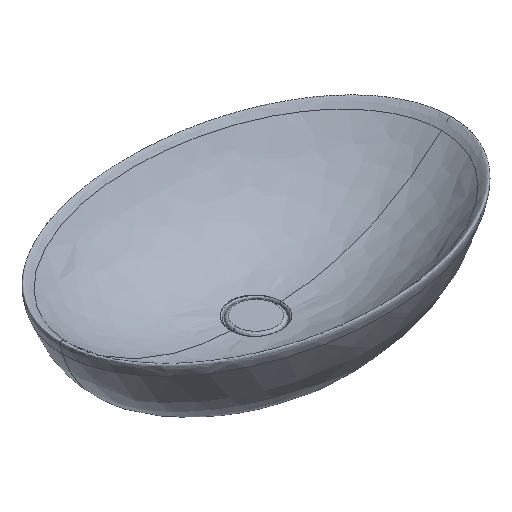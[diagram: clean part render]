
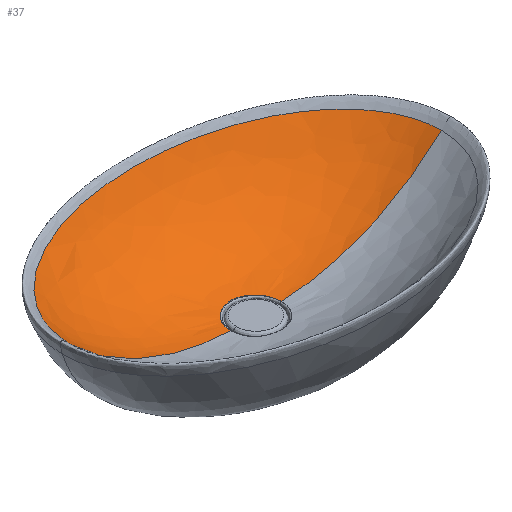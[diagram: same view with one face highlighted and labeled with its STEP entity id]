
A CAD part, isometric view. The second image highlights one B-rep face of the part: STEP entity #37.
In plain terms, the highlighted free-form (B-spline) face has degree [2, 3] with [5, 4] control points.
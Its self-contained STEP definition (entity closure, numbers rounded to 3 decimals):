
#37=ADVANCED_FACE('',(#52),#187,.T.);
#52=FACE_OUTER_BOUND('',#68,.T.);
#68=EDGE_LOOP('',(#109,#110,#111,#112,#113));
#109=ORIENTED_EDGE('',*,*,#149,.T.);
#110=ORIENTED_EDGE('',*,*,#144,.T.);
#111=ORIENTED_EDGE('',*,*,#136,.T.);
#112=ORIENTED_EDGE('',*,*,#135,.T.);
#113=ORIENTED_EDGE('',*,*,#148,.F.);
#135=EDGE_CURVE('',#165,#166,#160,.T.);
#136=EDGE_CURVE('',#162,#165,#219,.T.);
#144=EDGE_CURVE('',#168,#162,#226,.T.);
#148=EDGE_CURVE('',#172,#166,#230,.T.);
#149=EDGE_CURVE('',#172,#168,#231,.T.);
#160=B_SPLINE_CURVE_WITH_KNOTS('',3,(#1621,#1622,#1623,#1624,#1625,#1626,
#1627,#1628,#1629,#1630,#1631,#1632,#1633,#1634,#1635,#1636,#1637,#1638,
#1639,#1640,#1641,#1642,#1643,#1644,#1645,#1646,#1647,#1648,#1649,#1650,
#1651),.UNSPECIFIED.,.F.,.F.,(4,2,3,3,2,2,3,2,2,3,3,2,4),(-24.831,
-23.68,-22.529,-21.729,-20.953,
-20.178,-18.623,-17.068,-16.293,
-15.518,-14.717,-13.566,-12.415),
 .UNSPECIFIED.);
#162=VERTEX_POINT('',#1558);
#165=VERTEX_POINT('',#1561);
#166=VERTEX_POINT('',#1562);
#168=VERTEX_POINT('',#1564);
#172=VERTEX_POINT('',#1568);
#187=(
BOUNDED_SURFACE()
B_SPLINE_SURFACE(2,3,((#1463,#1464,#1465,#1466),(#1467,#1468,#1469,#1470),
(#1471,#1472,#1473,#1474),(#1475,#1476,#1477,#1478),(#1479,#1480,#1481,
#1482)),.UNSPECIFIED.,.F.,.F.,.F.)
B_SPLINE_SURFACE_WITH_KNOTS((3,2,3),(4,4),(3.142,4.712,
6.283),(38.313,65.694),.UNSPECIFIED.)
GEOMETRIC_REPRESENTATION_ITEM()
RATIONAL_B_SPLINE_SURFACE(((1.,0.957,0.957,1.),
(0.707,0.677,0.677,0.707),
(1.,0.957,0.957,1.),(0.707,0.677,
0.677,0.707),(1.,0.957,0.957,
1.)))
REPRESENTATION_ITEM('')
SURFACE()
);
#219=(
BOUNDED_CURVE()
B_SPLINE_CURVE(3,(#1652,#1653,#1654,#1655),.UNSPECIFIED.,.F.,.F.)
B_SPLINE_CURVE_WITH_KNOTS((4,4),(38.313,65.694),
 .UNSPECIFIED.)
CURVE()
GEOMETRIC_REPRESENTATION_ITEM()
RATIONAL_B_SPLINE_CURVE((1.,0.957,0.957,1.))
REPRESENTATION_ITEM('')
);
#226=(
BOUNDED_CURVE()
B_SPLINE_CURVE(2,(#1700,#1701,#1702,#1703,#1704),.UNSPECIFIED.,.F.,.F.)
B_SPLINE_CURVE_WITH_KNOTS((3,2,3),(3.142,4.712,6.283),
 .UNSPECIFIED.)
CURVE()
GEOMETRIC_REPRESENTATION_ITEM()
RATIONAL_B_SPLINE_CURVE((1.,0.707,1.,0.707,1.))
REPRESENTATION_ITEM('')
);
#230=(
BOUNDED_CURVE()
B_SPLINE_CURVE(3,(#1719,#1720,#1721,#1722),.UNSPECIFIED.,.F.,.F.)
B_SPLINE_CURVE_WITH_KNOTS((4,4),(38.313,65.694),
 .UNSPECIFIED.)
CURVE()
GEOMETRIC_REPRESENTATION_ITEM()
RATIONAL_B_SPLINE_CURVE((1.,0.957,0.957,1.))
REPRESENTATION_ITEM('')
);
#231=(
BOUNDED_CURVE()
B_SPLINE_CURVE(2,(#1723,#1724,#1725),.UNSPECIFIED.,.F.,.F.)
B_SPLINE_CURVE_WITH_KNOTS((3,3),(3.142,3.142),
 .UNSPECIFIED.)
CURVE()
GEOMETRIC_REPRESENTATION_ITEM()
RATIONAL_B_SPLINE_CURVE((1.,1.,1.))
REPRESENTATION_ITEM('')
);
#1463=CARTESIAN_POINT('',(289.236,0.,127.048));
#1464=CARTESIAN_POINT('',(221.075,0.,60.973));
#1465=CARTESIAN_POINT('',(134.085,0.,23.948));
#1466=CARTESIAN_POINT('',(39.37,0.,20.699));
#1467=CARTESIAN_POINT('',(289.236,190.499,127.048));
#1468=CARTESIAN_POINT('',(221.075,145.606,60.973));
#1469=CARTESIAN_POINT('',(134.085,88.312,23.948));
#1470=CARTESIAN_POINT('',(39.37,25.93,20.699));
#1471=CARTESIAN_POINT('',(0.,190.499,127.048));
#1472=CARTESIAN_POINT('',(0.,145.606,60.973));
#1473=CARTESIAN_POINT('',(0.,88.312,23.948));
#1474=CARTESIAN_POINT('',(0.,25.93,20.699));
#1475=CARTESIAN_POINT('',(-289.236,190.499,127.048));
#1476=CARTESIAN_POINT('',(-221.075,145.606,60.973));
#1477=CARTESIAN_POINT('',(-134.085,88.312,23.948));
#1478=CARTESIAN_POINT('',(-39.37,25.93,20.699));
#1479=CARTESIAN_POINT('',(-289.236,0.,127.048));
#1480=CARTESIAN_POINT('',(-221.075,0.,60.973));
#1481=CARTESIAN_POINT('',(-134.085,0.,23.948));
#1482=CARTESIAN_POINT('',(-39.37,0.,20.699));
#1558=CARTESIAN_POINT('',(-289.236,0.,127.048));
#1561=CARTESIAN_POINT('',(-39.37,0.,20.699));
#1562=CARTESIAN_POINT('',(39.37,0.,20.699));
#1564=CARTESIAN_POINT('',(289.236,0.,127.048));
#1568=CARTESIAN_POINT('',(289.236,0.,127.048));
#1621=CARTESIAN_POINT('',(-39.37,0.,20.699));
#1622=CARTESIAN_POINT('',(-39.37,3.829,20.699));
#1623=CARTESIAN_POINT('',(-38.811,7.637,20.724));
#1624=CARTESIAN_POINT('',(-36.613,14.972,20.828));
#1625=CARTESIAN_POINT('',(-34.985,18.459,20.908));
#1626=CARTESIAN_POINT('',(-32.879,21.655,21.011));
#1627=CARTESIAN_POINT('',(-31.413,23.882,21.083));
#1628=CARTESIAN_POINT('',(-29.724,25.954,21.165));
#1629=CARTESIAN_POINT('',(-27.839,27.839,21.252));
#1630=CARTESIAN_POINT('',(-26.016,29.662,21.336));
#1631=CARTESIAN_POINT('',(-24.018,31.301,21.423));
#1632=CARTESIAN_POINT('',(-19.731,34.166,21.59));
#1633=CARTESIAN_POINT('',(-17.451,35.385,21.669));
#1634=CARTESIAN_POINT('',(-10.292,38.351,21.87));
#1635=CARTESIAN_POINT('',(-5.172,39.37,21.951));
#1636=CARTESIAN_POINT('',(0.,39.37,21.951));
#1637=CARTESIAN_POINT('',(5.172,39.37,21.951));
#1638=CARTESIAN_POINT('',(10.292,38.351,21.87));
#1639=CARTESIAN_POINT('',(17.451,35.385,21.669));
#1640=CARTESIAN_POINT('',(19.731,34.166,21.59));
#1641=CARTESIAN_POINT('',(24.018,31.301,21.423));
#1642=CARTESIAN_POINT('',(26.016,29.662,21.336));
#1643=CARTESIAN_POINT('',(27.839,27.839,21.252));
#1644=CARTESIAN_POINT('',(29.724,25.954,21.165));
#1645=CARTESIAN_POINT('',(31.413,23.882,21.083));
#1646=CARTESIAN_POINT('',(32.879,21.655,21.011));
#1647=CARTESIAN_POINT('',(34.985,18.459,20.908));
#1648=CARTESIAN_POINT('',(36.613,14.972,20.828));
#1649=CARTESIAN_POINT('',(38.811,7.637,20.724));
#1650=CARTESIAN_POINT('',(39.37,3.829,20.699));
#1651=CARTESIAN_POINT('',(39.37,0.,20.699));
#1652=CARTESIAN_POINT('',(-289.236,0.,127.048));
#1653=CARTESIAN_POINT('',(-221.075,0.,60.973));
#1654=CARTESIAN_POINT('',(-134.085,0.,23.948));
#1655=CARTESIAN_POINT('',(-39.37,0.,20.699));
#1700=CARTESIAN_POINT('',(289.236,0.,127.048));
#1701=CARTESIAN_POINT('',(289.236,190.499,127.048));
#1702=CARTESIAN_POINT('',(0.,190.499,127.048));
#1703=CARTESIAN_POINT('',(-289.236,190.499,127.048));
#1704=CARTESIAN_POINT('',(-289.236,0.,127.048));
#1719=CARTESIAN_POINT('',(289.236,0.,127.048));
#1720=CARTESIAN_POINT('',(221.075,0.,60.973));
#1721=CARTESIAN_POINT('',(134.085,0.,23.948));
#1722=CARTESIAN_POINT('',(39.37,0.,20.699));
#1723=CARTESIAN_POINT('',(289.236,0.,127.048));
#1724=CARTESIAN_POINT('',(289.236,0.,127.048));
#1725=CARTESIAN_POINT('',(289.236,0.,127.048));
